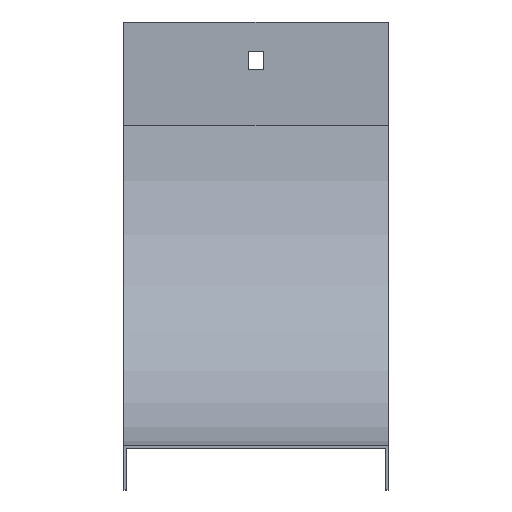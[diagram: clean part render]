
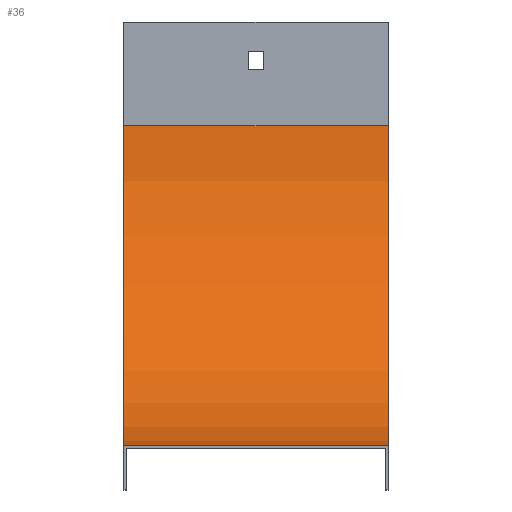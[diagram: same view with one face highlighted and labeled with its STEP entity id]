
A CAD part, top view. The second image highlights one B-rep face of the part: STEP entity #36.
In plain terms, the highlighted cylindrical face has radius 124 mm (diameter 248 mm), a partial arc.
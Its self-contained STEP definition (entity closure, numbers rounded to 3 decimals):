
#12 = CIRCLE ( 'NONE', #471, 124. ) ;
#36 = ADVANCED_FACE ( 'NONE', ( #661 ), #535, .F. ) ;
#61 = CARTESIAN_POINT ( 'NONE',  ( 51., 124., -40. ) ) ;
#70 = EDGE_CURVE ( 'NONE', #595, #715, #12, .T. ) ;
#79 = CARTESIAN_POINT ( 'NONE',  ( 51., 0., -40. ) ) ;
#142 = ORIENTED_EDGE ( 'NONE', *, *, #745, .T. ) ;
#150 = CARTESIAN_POINT ( 'NONE',  ( 51., 124., -164. ) ) ;
#166 = DIRECTION ( 'NONE',  ( -1., 0., 0. ) ) ;
#190 = VERTEX_POINT ( 'NONE', #383 ) ;
#193 = EDGE_CURVE ( 'NONE', #715, #316, #374, .T. ) ;
#261 = DIRECTION ( 'NONE',  ( -1., 0., 0. ) ) ;
#262 = EDGE_CURVE ( 'NONE', #190, #316, #639, .T. ) ;
#299 = EDGE_LOOP ( 'NONE', ( #452, #555, #757, #142 ) ) ;
#316 = VERTEX_POINT ( 'NONE', #596 ) ;
#329 = CARTESIAN_POINT ( 'NONE',  ( -51., 124., -40. ) ) ;
#374 = LINE ( 'NONE', #775, #793 ) ;
#383 = CARTESIAN_POINT ( 'NONE',  ( -51., 124., -164. ) ) ;
#407 = LINE ( 'NONE', #150, #829 ) ;
#452 = ORIENTED_EDGE ( 'NONE', *, *, #262, .T. ) ;
#471 = AXIS2_PLACEMENT_3D ( 'NONE', #493, #686, #507 ) ;
#484 = AXIS2_PLACEMENT_3D ( 'NONE', #329, #166, #579 ) ;
#493 = CARTESIAN_POINT ( 'NONE',  ( 51., 124., -40. ) ) ;
#507 = DIRECTION ( 'NONE',  ( 0., 0., -1. ) ) ;
#535 = CYLINDRICAL_SURFACE ( 'NONE', #849, 124. ) ;
#555 = ORIENTED_EDGE ( 'NONE', *, *, #193, .F. ) ;
#579 = DIRECTION ( 'NONE',  ( 0., 0., -1. ) ) ;
#592 = DIRECTION ( 'NONE',  ( -1., 0., 0. ) ) ;
#595 = VERTEX_POINT ( 'NONE', #844 ) ;
#596 = CARTESIAN_POINT ( 'NONE',  ( -51., 0., -40. ) ) ;
#639 = CIRCLE ( 'NONE', #484, 124. ) ;
#661 = FACE_OUTER_BOUND ( 'NONE', #299, .T. ) ;
#677 = DIRECTION ( 'NONE',  ( -1., 0., 0. ) ) ;
#686 = DIRECTION ( 'NONE',  ( -1., 0., 0. ) ) ;
#715 = VERTEX_POINT ( 'NONE', #79 ) ;
#745 = EDGE_CURVE ( 'NONE', #595, #190, #407, .T. ) ;
#757 = ORIENTED_EDGE ( 'NONE', *, *, #70, .F. ) ;
#775 = CARTESIAN_POINT ( 'NONE',  ( 51., 0., -40. ) ) ;
#793 = VECTOR ( 'NONE', #592, 1000. ) ;
#798 = DIRECTION ( 'NONE',  ( 0., 0., 1. ) ) ;
#829 = VECTOR ( 'NONE', #677, 1000. ) ;
#844 = CARTESIAN_POINT ( 'NONE',  ( 51., 124., -164. ) ) ;
#849 = AXIS2_PLACEMENT_3D ( 'NONE', #61, #261, #798 ) ;
